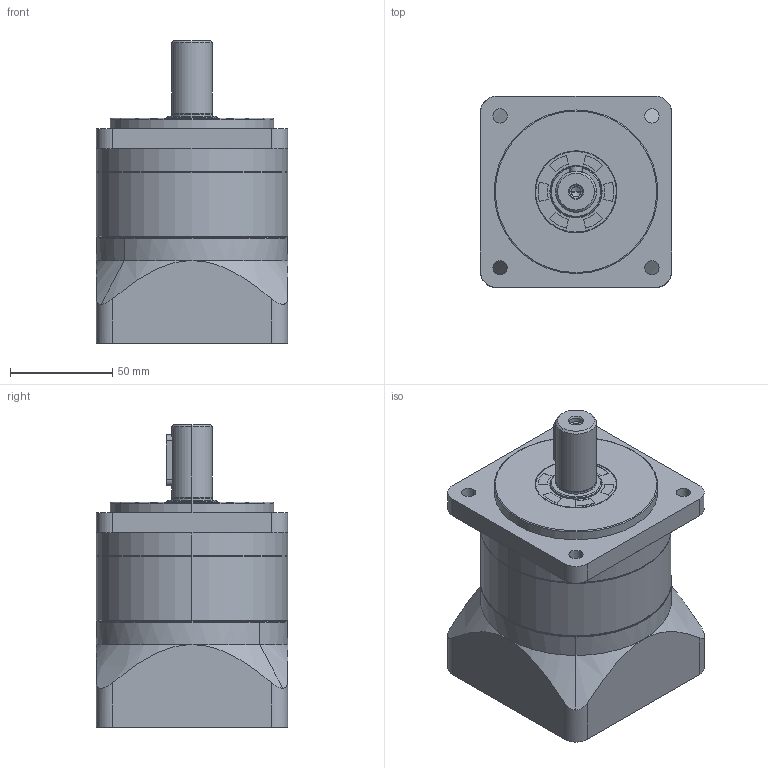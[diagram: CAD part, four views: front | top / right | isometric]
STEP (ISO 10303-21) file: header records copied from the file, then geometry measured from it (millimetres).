
FILE_DESCRIPTION (( 'STEP AP214' ), '1' );
FILE_NAME ('SB93-L1(19-70-90-M6).STEP', '2019-07-12T05:46:13', ( '' ), ( '' ), 'SwSTEP 2.0', 'SolidWorks 2016', '' );
FILE_SCHEMA (( 'AUTOMOTIVE_DESIGN' ));
Length unit declared in the file: millimetre
Products named in the file (9): SN93-(20x37-6x25); SN90-25x40x5; SN90-48x27x15-M6; SN93; SB93-L1(19-70-90-M6); DP93; SN93-(70-90-M6); SB93-(80x5-105-7); SN90-(19)
Assembly tree (8 placements, depth 2):
  SB93-L1(19-70-90-M6)
    SB93-(80x5-105-7)
    SN90-25x40x5
    SN93-(20x37-6x25)
    SN93
    DP93
    SN93-(70-90-M6)
    SN90-(19)
    SN90-48x27x15-M6
Bounding box: 93.5 x 93.5 x 148.1 mm (x, y, z)
Volume: 743765.9 mm3; surface area: 135114 mm2
Topology: 10 solids, 10 shells, 404 faces, 1026 edges, 653 vertices
Faces by surface type: cylinder 226, plane 99, cone 43, bspline 30, torus 6
Entity records: 31128 total; most frequent: CARTESIAN_POINT 19850, ORIENTED_EDGE 2016, DIRECTION 1877, EDGE_CURVE 1008, AXIS2_PLACEMENT_3D 737, VERTEX_POINT 653, EDGE_LOOP 479, FACE_OUTER_BOUND 404
